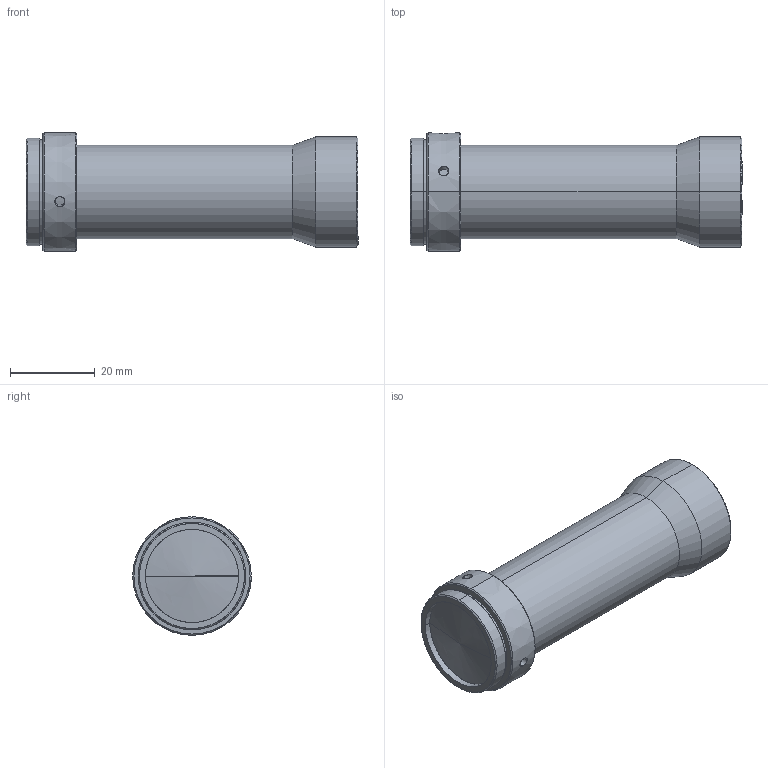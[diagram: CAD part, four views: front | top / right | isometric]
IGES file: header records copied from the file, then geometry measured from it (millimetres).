
Start section: SolidWorks IGES file using analytic representation for surfaces
Global section: file name: C:\Users\frank\Desktop\WWH15-65AT.IGS; native system: SolidWorks 2012; preprocessor: SolidWorks 2012; author: frank; date: 170912.094354; units: millimetre
Bounding box: 78.39 x 28 x 28 mm (x, y, z)
Surface area: 7405.9 mm2 (no closed solid volume)
Topology: 0 solids, 0 shells, 43 faces, 777 edges, 775 vertices
Faces by surface type: revolution 37, bspline 6
